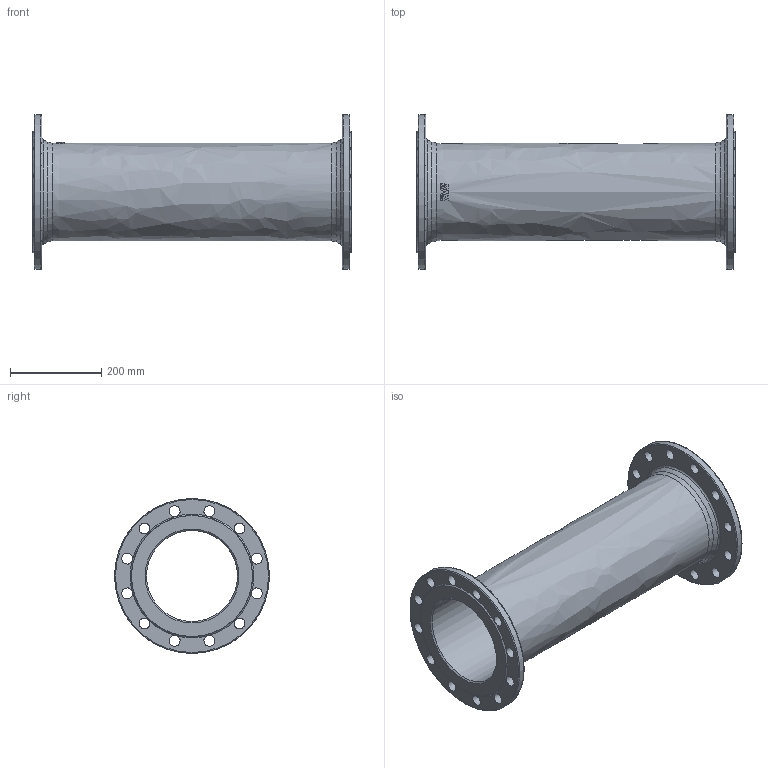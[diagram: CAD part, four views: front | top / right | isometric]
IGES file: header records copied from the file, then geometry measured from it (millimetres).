
Start section: SolidWorks IGES file using analytic representation for surfaces
Global section: file name: \\avksan2\techshare\PBM outline export from Enovia\O_712_5010_DN200_1X_REV01.igs; native system: SolidWorks 2019; preprocessor: SolidWorks 2019; author: pbm; date: 211203.104904; units: millimetre
Bounding box: 700 x 340 x 340 mm (x, y, z)
Surface area: 1145825.6 mm2 (no closed solid volume)
Topology: 0 solids, 0 shells, 89 faces, 600 edges, 557 vertices
Faces by surface type: revolution 46, bspline 43
